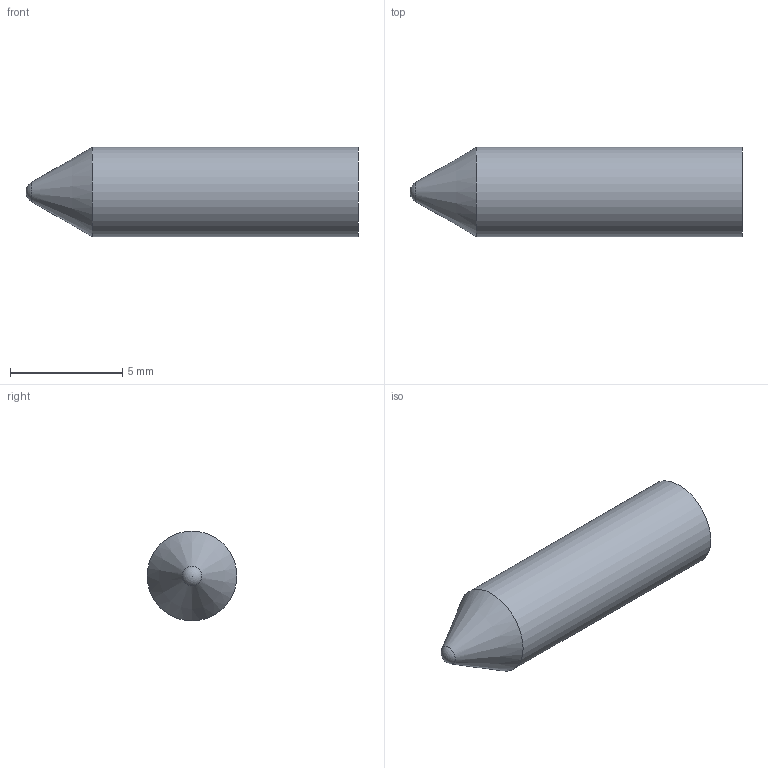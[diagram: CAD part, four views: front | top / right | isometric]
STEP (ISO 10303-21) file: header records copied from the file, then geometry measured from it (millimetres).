
FILE_DESCRIPTION(('STEP AP214'), '1');
FILE_NAME('P1.WSD5080.250.004.002 _ ﾘ', '', ('UNSPECIFIED'), ('UNSPECIFIED'), 'C3D Converter', 'C3D Toolkit', '');
FILE_SCHEMA(('AUTOMOTIVE_DESIGN { 1 0 10303 214 3 1 1}'));
Length unit declared in the file: millimetre
Products named in the file (1): P1.WSD5080.250.004.002
Bounding box: 14.8 x 4 x 4 mm (x, y, z)
Volume: 163.2 mm3; surface area: 186 mm2
Topology: 1 solids, 1 shells, 4 faces, 7 edges, 4 vertices
Faces by surface type: sphere 1, cone 1, cylinder 1, plane 1
Full cylindrical faces by diameter (mm): 4 x1
Entity records: 109 total; most frequent: DIRECTION 16, CARTESIAN_POINT 11, AXIS2_PLACEMENT_3D 8, EDGE_LOOP 6, ORIENTED_EDGE 6, FACE_OUTER_BOUND 5, ADVANCED_FACE 4, EDGE_CURVE 3
